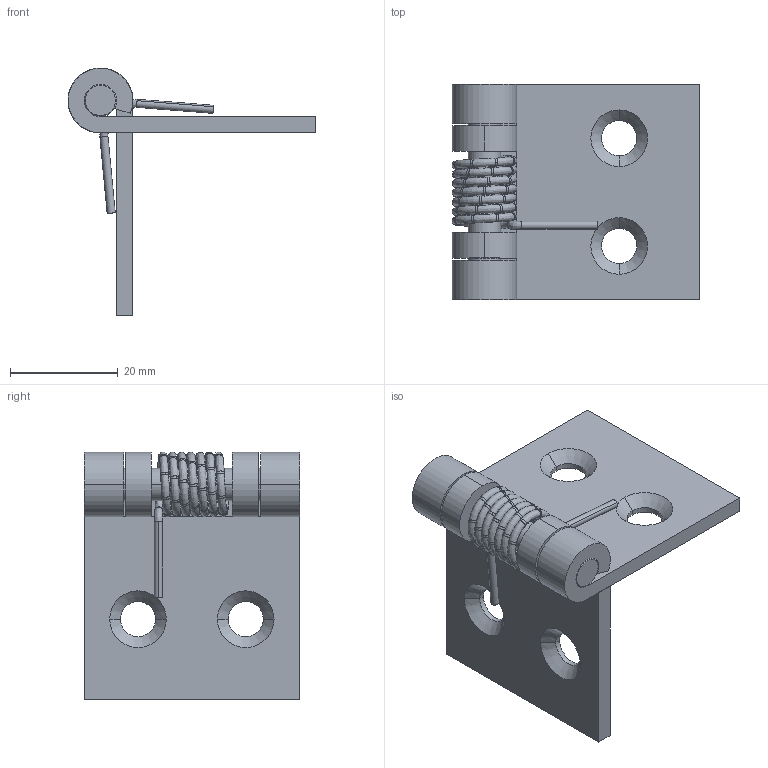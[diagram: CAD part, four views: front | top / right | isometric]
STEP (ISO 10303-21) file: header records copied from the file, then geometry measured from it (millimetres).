
FILE_DESCRIPTION((''),'2;1');
FILE_NAME('64080.01.__.stp','2013-04-03T09:46:07',(''),(''),'Mechanical Desktop 2006','Mechanical Desktop 2006',', , ');
FILE_SCHEMA(('CONFIG_CONTROL_DESIGN'));
Length unit declared in the file: millimetre
Products named in the file (5): 64080.02.30; ~~TEIL1; ~~TEIL2; ~~TEIL3; ~DREHFEDERN - 1.500000 X 12.000000 X 7.000000
Assembly tree (4 placements, depth 2):
  64080.02.30
    ~~TEIL1
    ~~TEIL2
    ~~TEIL3
    ~DREHFEDERN - 1.500000 X 12.000000 X 7.000000
Bounding box: 46.02 x 40.05 x 46.02 mm (x, y, z)
Volume: 11281 mm3; surface area: 10420.5 mm2
Topology: 4 solids, 4 shells, 248 faces, 594 edges, 354 vertices
Faces by surface type: cylinder 152, bspline 58, plane 28, cone 10
Entity records: 8835 total; most frequent: CARTESIAN_POINT 2863, DIRECTION 1352, ORIENTED_EDGE 1188, EDGE_CURVE 594, AXIS2_PLACEMENT_3D 565, CIRCLE 370, VERTEX_POINT 354, EDGE_LOOP 256
